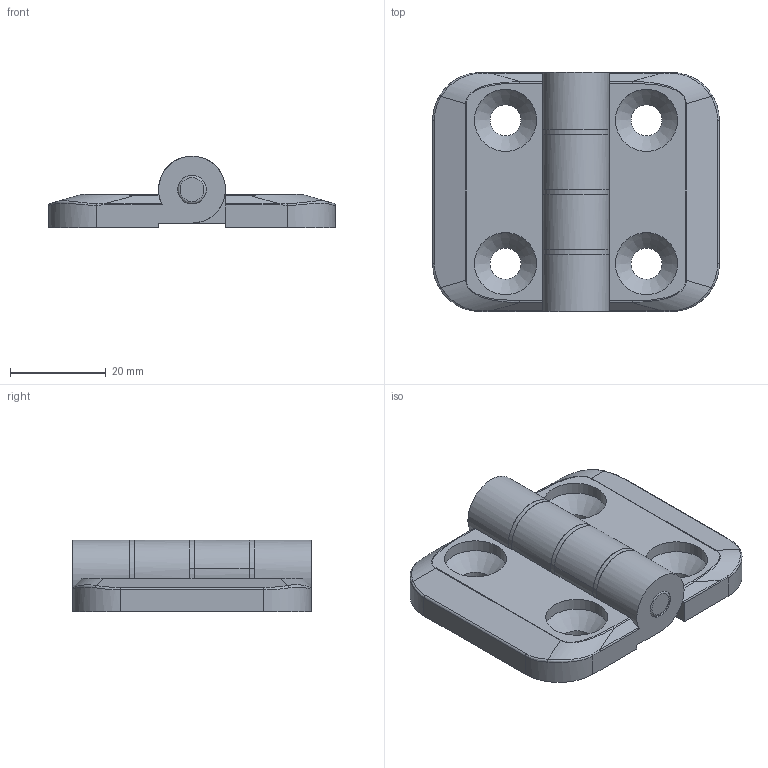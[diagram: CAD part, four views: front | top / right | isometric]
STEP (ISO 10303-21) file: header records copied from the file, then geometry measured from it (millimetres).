
FILE_DESCRIPTION(/* description */ (''),/* implementation_level */ '2;1');
FILE_NAME(/* name */ '\\NAS\db20\HP5060\DR_HP5060.stp',/* time_stamp */ '2017-08-10T09:07:09+09:00',/* author */ ('user'),/* organization */ (''),/* preprocessor_version */ 'ST-DEVELOPER v15.6',/* originating_system */ 'Autodesk Inventor 2015',/* authorisation */ '');
FILE_SCHEMA (('AUTOMOTIVE_DESIGN { 1 0 10303 214 3 1 1 }'));
Length unit declared in the file: millimetre
Products named in the file (3): DR_HP5060-1; DR_HP5060-2; DR_HP5060
Bounding box: 60 x 50 x 15 mm (x, y, z)
Volume: 20436.5 mm3; surface area: 12040.8 mm2
Topology: 3 solids, 3 shells, 101 faces, 241 edges, 150 vertices
Faces by surface type: cylinder 41, plane 38, bspline 16, cone 4, torus 2
Full cylindrical faces by diameter (mm): 6 x8, 6.5 x4, 13 x4, 14 x3
Entity records: 3163 total; most frequent: CARTESIAN_POINT 838, DIRECTION 484, ORIENTED_EDGE 424, EDGE_CURVE 210, AXIS2_PLACEMENT_3D 196, EDGE_LOOP 148, VERTEX_POINT 144, FACE_OUTER_BOUND 101
